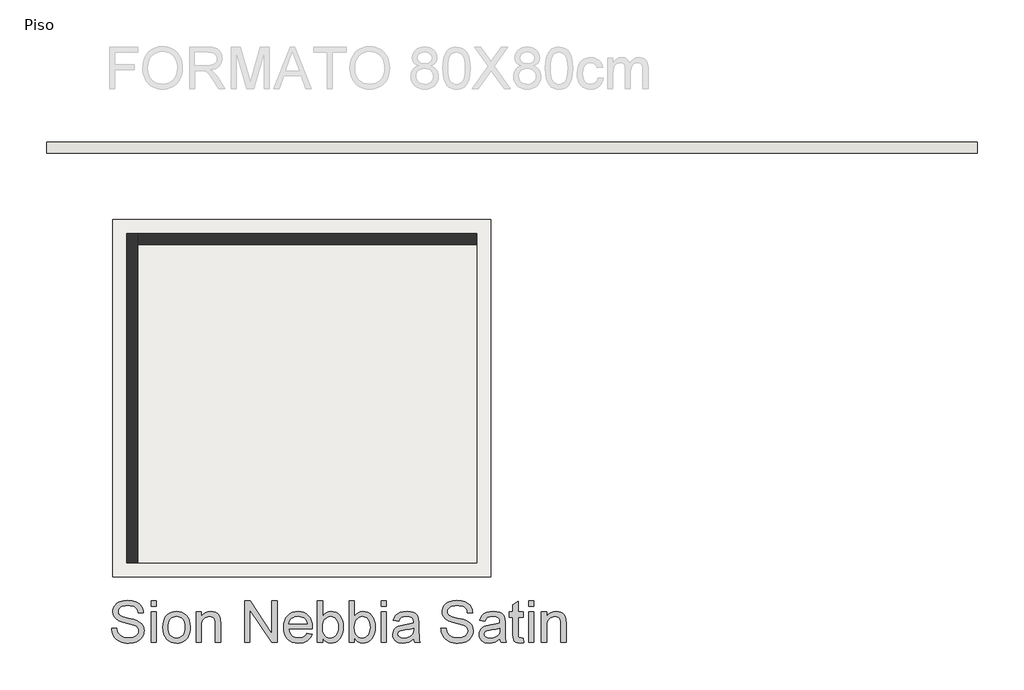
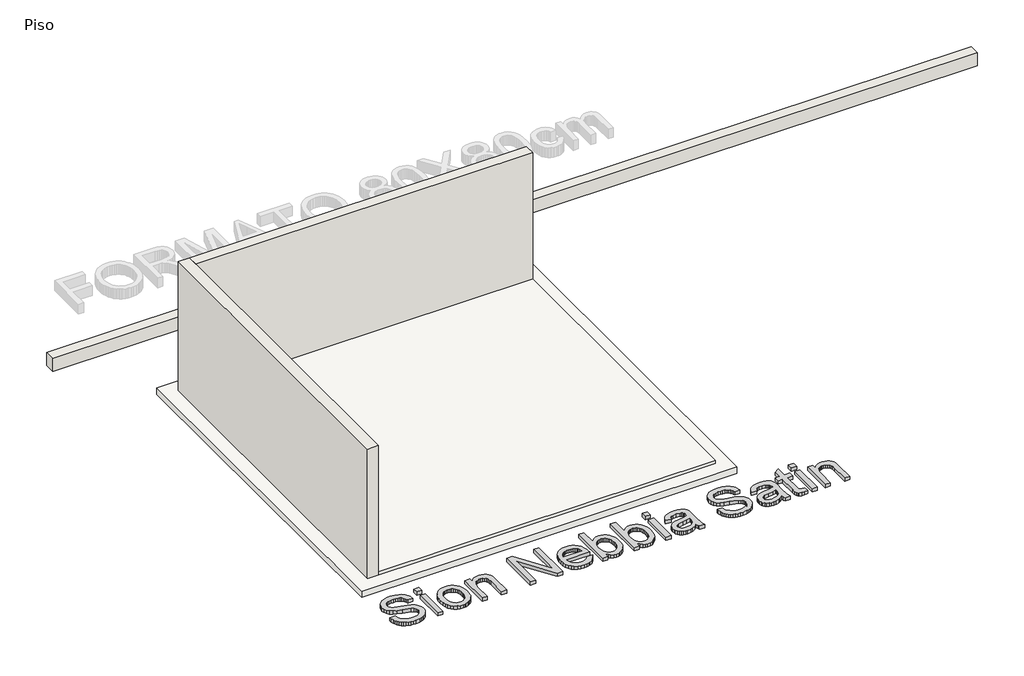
# One storey, part 1 of 2: 3 walls, 2 slabs, 1 proxy.
"""IFC4 building model written with IfcOpenShell, lengths in millimetres."""

import ifcopenshell
import ifcopenshell.guid

model = None  # the IFC model being written
_history = None  # IfcOwnerHistory: only IFC2X3 demands one
_inside = {}  # id of a spatial element -> (the spatial element, [elements in it])
_under = {}  # id of a project, library or spatial element -> (it, [spatial elements below it])
_declared = {}  # id of a project -> (the project, [libraries it declares])
_typed = {}  # id of a type object -> (the type object, [elements of that type])
_made_of = {}  # id of a material, layer set ... -> (it, [elements and type objects made of it])


def new_model(schema):
    """Start an empty IFC model of exactly this schema.

    Asked for "IFC4X3", IfcOpenShell would pick the latest addendum, in which some entities
    have other attributes; the version numbers below select the first issue.
    IFC2X3 requires an IfcOwnerHistory on every rooted entity: one is made here for all.
    """
    global model, _history
    if schema == "IFC4X3":
        model = ifcopenshell.file(schema_version=(4, 3, 0, 0))
    else:
        model = ifcopenshell.file(schema=schema)
    _inside.clear()
    _under.clear()
    _declared.clear()
    _typed.clear()
    _made_of.clear()
    _history = None
    if model.schema == "IFC2X3":
        org = make("IfcOrganization", Name="unknown")
        user = make(
            "IfcPersonAndOrganization",
            ThePerson=make("IfcPerson", FamilyName="unknown"),
            TheOrganization=org,
        )
        app = make(
            "IfcApplication",
            ApplicationDeveloper=org,
            Version="unknown",
            ApplicationFullName="unknown",
            ApplicationIdentifier="unknown",
        )
        _history = make(
            "IfcOwnerHistory",
            OwningUser=user,
            OwningApplication=app,
            ChangeAction="ADDED",
            CreationDate=0,
        )
    return model


def make(cls, **values):
    """One entity of the class cls with the attributes given. An attribute that is None is left unset."""
    return model.create_entity(
        cls, **{name: value for name, value in values.items() if value is not None}
    )


def rooted(cls, **values):
    """An entity with a GlobalId (a new one), such as an element, a storey or a relation."""
    return make(cls, GlobalId=ifcopenshell.guid.new(), OwnerHistory=_history, **values)


def si_unit(unit_type, name, prefix=None):
    """IfcSIUnit, for example si_unit("LENGTHUNIT", "METRE", prefix="MILLI")."""
    return make("IfcSIUnit", UnitType=unit_type, Prefix=prefix, Name=name)


def assignment(units):
    """IfcUnitAssignment: the units of a project."""
    return None if units is None else make("IfcUnitAssignment", Units=units)


def point(xyz):
    """IfcCartesianPoint."""
    return None if xyz is None else make("IfcCartesianPoint", Coordinates=xyz)


def direction(xyz):
    """IfcDirection."""
    return None if xyz is None else make("IfcDirection", DirectionRatios=xyz)


def frame(location, z_axis=None, x_axis=None):
    """IfcAxis2Placement3D, a coordinate frame: its origin and axes. An axis left out is left unset."""
    return make(
        "IfcAxis2Placement3D",
        Location=point(location),
        Axis=direction(z_axis),
        RefDirection=direction(x_axis),
    )


def origin():
    """The frame at (0, 0, 0) with its axes left unset."""
    return frame((0.0, 0.0, 0.0))


def origin_with_axes():
    """The frame at (0, 0, 0) with the z axis (0, 0, 1) and the x axis (1, 0, 0) written out."""
    return frame((0.0, 0.0, 0.0), z_axis=(0.0, 0.0, 1.0), x_axis=(1.0, 0.0, 0.0))


def place(relative_to, where):
    """IfcLocalPlacement: puts the frame where relative to a parent placement (None: the world)."""
    return make(
        "IfcLocalPlacement", PlacementRelTo=relative_to, RelativePlacement=where
    )


def context(
    kind, dimensions, precision=None, world=None, true_north=None, identifier=None
):
    """IfcGeometricRepresentationContext, for example the 3D "Model" context."""
    return make(
        "IfcGeometricRepresentationContext",
        ContextIdentifier=identifier,
        ContextType=kind,
        CoordinateSpaceDimension=dimensions,
        Precision=precision,
        WorldCoordinateSystem=world,
        TrueNorth=true_north,
    )


def project(units=None, contexts=None):
    """IfcProject with its units and contexts."""
    return rooted(
        "IfcProject",
        Name="project",
        RepresentationContexts=contexts,
        UnitsInContext=assignment(units),
    )


def spatial(cls, under=None, at=None, **own):
    """A site, building, storey or space (cls), placed at a placement, below another one or the project."""
    s = rooted(cls, ObjectPlacement=at, **own)
    if under is not None:
        _under.setdefault(under.id(), (under, []))[1].append(s)
    return s


def polyline(points):
    """IfcPolyline through the points."""
    return make("IfcPolyline", Points=[point(p) for p in points])


def outline(outer, holes=None, kind="AREA"):
    """IfcArbitraryClosedProfileDef: a profile drawn as a closed curve; with holes, ...WithVoids."""
    if holes is None:
        return make("IfcArbitraryClosedProfileDef", ProfileType=kind, OuterCurve=outer)
    return make(
        "IfcArbitraryProfileDefWithVoids",
        ProfileType=kind,
        OuterCurve=outer,
        InnerCurves=holes,
    )


def extrude(swept, where, along, depth):
    """IfcExtrudedAreaSolid: the profile swept, set in the frame where, extruded along a direction by depth."""
    return make(
        "IfcExtrudedAreaSolid",
        SweptArea=swept,
        Position=where,
        ExtrudedDirection=direction(along),
        Depth=depth,
    )


def faces_of(points, faces, orient=None, outer=None):
    """IfcFace entities. A face is a list of loops; a loop is a list of indices into points, from 0.

    orient and outer hold one flag for each loop. By default every Orientation is true, the
    first loop of a face is its IfcFaceOuterBound and the others are IfcFaceBound.
    """
    made = []
    for i, loops in enumerate(faces):
        bounds = []
        for j, loop in enumerate(loops):
            is_outer = j == 0 if outer is None else outer[i][j]
            bounds.append(
                make(
                    "IfcFaceOuterBound" if is_outer else "IfcFaceBound",
                    Bound=make("IfcPolyLoop", Polygon=[points[k] for k in loop]),
                    Orientation=True if orient is None else orient[i][j],
                )
            )
        made.append(make("IfcFace", Bounds=bounds))
    return made


def faceted_brep(points, faces, orient=None, outer=None, voids=None):
    """IfcFacetedBrep: a solid bounded by flat faces; with voids (closed shells), ...WithVoids."""
    shared = [point(p) for p in points]
    hull = make("IfcClosedShell", CfsFaces=faces_of(shared, faces, orient, outer))
    if voids is None:
        return make("IfcFacetedBrep", Outer=hull)
    return make(
        "IfcFacetedBrepWithVoids",
        Outer=hull,
        Voids=[
            make(cls, CfsFaces=faces_of(shared, fs, o, b)) for cls, fs, o, b in voids
        ],
    )


def shape(context_of_items, identifier, shape_type, items):
    """IfcShapeRepresentation: the items that make up one representation, for example the "Body"."""
    return make(
        "IfcShapeRepresentation",
        ContextOfItems=context_of_items,
        RepresentationIdentifier=identifier,
        RepresentationType=shape_type,
        Items=items,
    )


def made_of(thing, what):
    """Note that an element or type object is made of a material, layer set ...; save() writes the relation."""
    if what is not None:
        _made_of.setdefault(what.id(), (what, []))[1].append(thing)
    return thing


def element(
    cls,
    number,
    at=None,
    inside=None,
    cuts=None,
    type_object=None,
    material=None,
    context=None,
    identifier="Body",
    shape_type=None,
    held_by="IfcProductDefinitionShape",
    body=None,
    shapes=None,
    **own,
):
    """One element of the class cls, such as IfcWall. Its Tag is "e" and its number.

    at: its placement. inside: the storey or other place that contains it. cuts: it is an
    opening in that element (IfcRelVoidsElement). A single representation is given by context,
    identifier, shape_type and body (its items); several are given by shapes. held_by: the class
    of the entity that holds the representations. save() writes the other relations.
    """
    e = rooted(cls, Tag="e%d" % number, ObjectPlacement=at, **own)
    if body is not None:
        shapes = [shape(context, identifier, shape_type, body)]
    if shapes is not None:
        e.Representation = make(held_by, Representations=shapes)
    if inside is not None:
        _inside.setdefault(inside.id(), (inside, []))[1].append(e)
    if cuts is not None:
        rooted(
            "IfcRelVoidsElement", RelatingBuildingElement=cuts, RelatedOpeningElement=e
        )
    if type_object is not None:
        _typed.setdefault(type_object.id(), (type_object, []))[1].append(e)
    return made_of(e, material)


def aggregate(whole, parts):
    """IfcRelAggregates: a whole, such as a stair, and the parts it consists of."""
    return rooted("IfcRelAggregates", RelatingObject=whole, RelatedObjects=parts)


def save(model, path):
    """Write the relations noted so far, then the file.

    IfcRelAggregates (storeys below a building ...), IfcRelContainedInSpatialStructure (elements
    in a storey), IfcRelDefinesByType, IfcRelAssociatesMaterial and IfcRelDeclares: one each for
    every whole, place, type object, material and project.
    """
    for whole, parts in _under.values():
        aggregate(whole, parts)
    for where, things in _inside.values():
        rooted(
            "IfcRelContainedInSpatialStructure",
            RelatedElements=things,
            RelatingStructure=where,
        )
    for kind, things in _typed.values():
        rooted("IfcRelDefinesByType", RelatedObjects=things, RelatingType=kind)
    for what, things in _made_of.values():
        rooted("IfcRelAssociatesMaterial", RelatedObjects=things, RelatingMaterial=what)
    for by, libraries in _declared.values():
        rooted("IfcRelDeclares", RelatingContext=by, RelatedDefinitions=libraries)
    model.write(path)


model = new_model("IFC4")

# Units and contexts
model_context = context("Model", 3, world=origin())
ifc_project = project(units=[si_unit("LENGTHUNIT", "METRE", prefix="MILLI")], contexts=[model_context])

# Site, building, storey
site = spatial("IfcSite", under=ifc_project)
building = spatial("IfcBuilding", under=site)
storey = spatial("IfcBuildingStorey", under=building, Name="Piso", Elevation=0.0)

# Proxy
placement = place(None, origin())
element("IfcBuildingElementProxy", 1, Name="600mm Arial", ObjectType="600mm Arial", at=placement, inside=storey, context=model_context, shape_type="SweptSolid", body=[
    extrude(outline(polyline([(92629.829949, -5127.3536744), (92705.1721816, -5127.3536744), (92713.8174085, -5169.1634632), (92729.4523933, -5202.7694834), (92753.8429695, -5229.4409281), (92788.7549709, -5250.44699), (92831.4292823, -5264.0770179), (92879.1067889, -5268.6203606), (92921.0821245, -5265.1806639), (92957.8335359, -5254.861574), (92987.6135834, -5238.5276134), (93008.6748276, -5217.0433049), (93021.2012095, -5192.3768171), (93025.3766702, -5166.4963187), (93022.2496732, -5141.2780079), (93012.8686823, -5119.4809997), (92993.812395, -5100.8845649), (92961.6595086, -5085.2679742), (92851.9570976, -5056.4996022), (92779.9441971, -5037.4617089), (92733.8669772, -5019.3435206), (92696.3614078, -4993.9964512), (92669.7819336, -4963.2783046), (92653.9446137, -4927.8512684), (92648.6655071, -4888.3775304), (92650.2979835, -4865.9413272), (92655.1954125, -4844.250085), (92663.3577943, -4823.3038039), (92674.7851288, -4803.1024839), (92689.3486573, -4784.4692608), (92706.919621, -4768.2272707), (92727.4980202, -4754.3765136), (92751.0838546, -4742.9169895), (92804.0956501, -4727.521128), (92862.7728283, -4722.3891741), (92926.3428371, -4727.7602513), (92981.9665947, -4743.8734827), (93006.3019887, -4755.8756328), (93027.6575385, -4770.3977745), (93046.0332442, -4787.4399079), (93061.4291057, -4807.002033), (93073.7255614, -4828.5139327), (93082.8030496, -4851.4053898), (93088.6615704, -4875.6764045), (93091.3011237, -4901.3269766), (93015.9588911, -4901.3269766), (93010.9189078, -4877.2858882), (93002.1265281, -4856.3717968), (92989.581752, -4838.5847023), (92973.2845797, -4823.9246048), (92952.9315083, -4812.4650807), (92928.2190352, -4804.2797063), (92899.1471606, -4799.3684816), (92865.7158843, -4797.7314068), (92831.2177502, -4799.3500875), (92801.7412053, -4804.2061299), (92777.2862497, -4812.2995338), (92757.8528833, -4823.6302992), (92743.045633, -4837.2511301), (92732.4690256, -4852.2147302), (92726.1230612, -4868.5210997), (92724.0077397, -4886.1702384), (92725.5068589, -4901.3545677), (92730.0042162, -4915.1225514), (92737.4998119, -4927.4741894), (92747.9936458, -4938.4094817), (92764.5115474, -4948.7653599), (92790.5208045, -4959.2316026), (92871.013385, -4980.495182), (92954.0811395, -5000.6919035), (93004.33382, -5018.3134511), (93047.284043, -5045.6470833), (93063.8893165, -5061.7143294), (93077.2480315, -5079.3818623), (93087.5165377, -5098.5577113), (93094.851185, -5119.1499059), (93100.7189028, -5164.5833323), (93099.0312441, -5188.1507727), (93093.9682682, -5211.0284342), (93085.5299749, -5233.2163171), (93073.7163643, -5254.7144212), (93058.7343701, -5274.6904135), (93040.7909258, -5292.3119611), (93019.8860314, -5307.5790639), (92996.019687, -5320.4917219), (92969.8862697, -5330.7602281), (92942.180157, -5338.0948754), (92882.0498449, -5343.9625932), (92843.5096073, -5342.3807006), (92808.2343225, -5337.6350229), (92776.2239904, -5329.72556), (92747.478611, -5318.6523119), (92721.8234404, -5304.3968846), (92699.0837346, -5286.9408839), (92679.2594935, -5266.2843099), (92662.3507173, -5242.4271625), (92648.7298865, -5216.141994), (92638.7694814, -5188.2013564), (92632.4695023, -5158.6052499), (92629.829949, -5127.3536744)])), origin_with_axes(), (0.0, 0.0, 1.0), 50.0),
    extrude(outline(polyline([(93204.3144726, -4807.1491858), (93204.3144726, -4731.8069532), (93279.6567052, -4731.8069532), (93279.6567052, -4807.1491858), (93204.3144726, -4807.1491858)])), origin_with_axes(), (0.0, 0.0, 1.0), 50.0),
    extrude(outline(polyline([(93204.3144726, -5334.5448141), (93204.3144726, -4891.9091975), (93279.6567052, -4891.9091975), (93279.6567052, -5334.5448141), (93204.3144726, -5334.5448141)])), origin_with_axes(), (0.0, 0.0, 1.0), 50.0),
    extrude(outline(polyline([(93373.834496, -5113.2270058), (93377.9087891, -5055.9017939), (93390.1316684, -5006.504439), (93410.5031339, -4965.0349411), (93439.0231855, -4931.4933002), (93467.7363753, -4910.0549769), (93499.4294092, -4894.7418889), (93534.1022872, -4885.5540361), (93571.7550094, -4882.4914184), (93613.3210763, -4886.2208222), (93650.9048207, -4897.4090333), (93684.5062424, -4916.056052), (93714.1253415, -4942.1618781), (93738.2997872, -4974.8435948), (93755.5672483, -5013.2182854), (93765.927725, -5057.2859499), (93769.3812172, -5107.0465883), (93767.8545069, -5147.375652), (93763.2743761, -5183.1613731), (93755.6408247, -5214.4037515), (93744.9538527, -5241.1027873), (93731.3468174, -5264.1643899), (93714.953076, -5284.4944687), (93695.7726285, -5302.0930236), (93673.8054749, -5316.9600547), (93649.9069408, -5328.7736653), (93624.9323518, -5337.2119586), (93598.881708, -5342.2749345), (93571.7550094, -5343.9625932), (93529.5819372, -5340.246985), (93491.648705, -5329.1001606), (93457.9553127, -5310.5221198), (93428.5017605, -5284.5128628), (93404.5848323, -5251.5138478), (93387.5013121, -5211.9665333), (93377.2512, -5165.8709193), (93373.834496, -5113.2270058)]), holes=[polyline([(93449.1767286, -5113.079853), (93451.3564294, -5149.6243307), (93457.8955319, -5181.2667808), (93468.794036, -5208.0072033), (93484.0519418, -5229.8455983), (93502.6115884, -5246.8095568), (93523.4153152, -5258.92667), (93546.4631222, -5266.1969379), (93571.7550094, -5268.6203606), (93596.9181379, -5266.1831424), (93619.8739744, -5258.8714877), (93640.6225189, -5246.6853966), (93659.1637715, -5229.6248691), (93674.4216772, -5207.5703435), (93685.3201813, -5180.4022581), (93691.8592838, -5148.1206131), (93694.0389846, -5110.7254082), (93691.8454882, -5075.3397588), (93685.264999, -5044.5250432), (93674.297517, -5018.2812614), (93658.9430423, -4996.6084133), (93640.3328118, -4979.6444548), (93619.5980629, -4967.5273416), (93596.7387954, -4960.2570737), (93571.7550094, -4957.8336511), (93546.4631222, -4960.2478766), (93523.4153152, -4967.4905534), (93502.6115884, -4979.5616814), (93484.0519418, -4996.4612605), (93468.794036, -5018.2352761), (93457.8955319, -5044.9297134), (93451.3564294, -5076.5445724), (93449.1767286, -5113.079853)])]), origin_with_axes(), (0.0, 0.0, 1.0), 50.0),
    extrude(outline(polyline([(93854.1412289, -5334.5448141), (93854.1412289, -4891.9091975), (93929.4834615, -4891.9091975), (93929.4834615, -4953.7133727), (93955.6582655, -4922.5537677), (93987.093782, -4900.296907), (94023.790011, -4886.9427906), (94065.7469525, -4882.4914184), (94102.8846399, -4886.0782679), (94136.8953304, -4896.8388163), (94165.2590322, -4913.4302942), (94185.4557538, -4934.5099326), (94199.1593581, -4960.0225489), (94208.0437083, -4989.912961), (94212.0168338, -5062.7535961), (94212.0168338, -5334.5448141), (94136.6746012, -5334.5448141), (94136.6746012, -5072.9071391), (94134.5040974, -5033.9484359), (94127.9925861, -5006.2469216), (94115.981239, -4986.399688), (94097.3112277, -4971.0038265), (94073.3805039, -4961.1261949), (94045.5870192, -4957.8336511), (94022.7093576, -4959.6822581), (94001.4595739, -4965.2280792), (93981.837668, -4974.4711143), (93963.8436399, -4987.4113635), (93948.8110618, -5005.5203547), (93938.0735061, -5030.2696159), (93931.6309727, -5061.6591471), (93929.4834615, -5099.6889484), (93929.4834615, -5334.5448141), (93854.1412289, -5334.5448141)])), origin_with_axes(), (0.0, 0.0, 1.0), 50.0),
    extrude(outline(polyline([(94560.4746596, -5334.5448141), (94560.4746596, -4731.8069532), (94641.114393, -4731.8069532), (94956.0213809, -5209.317783), (94956.0213809, -4731.8069532), (95031.3636135, -4731.8069532), (95031.3636135, -5334.5448141), (94950.7238801, -5334.5448141), (94635.8168923, -4856.8868316), (94635.8168923, -5334.5448141), (94560.4746596, -5334.5448141)])), origin_with_axes(), (0.0, 0.0, 1.0), 50.0),
    extrude(outline(polyline([(95463.6985342, -5202.695907), (95537.5692388, -5212.1136861), (95526.2430719, -5241.7005956), (95510.9529765, -5267.774232), (95491.6989526, -5290.3345953), (95468.4810001, -5309.3816856), (95441.5382425, -5324.5108327), (95411.109803, -5335.3173663), (95377.1956816, -5341.8012865), (95339.7958782, -5343.9625932), (95293.0472737, -5340.2331895), (95251.3938348, -5329.0449783), (95214.8355615, -5310.3979597), (95183.3724539, -5284.2921336), (95158.0713697, -5251.454067), (95139.9991666, -5212.6103268), (95129.1558448, -5167.7609131), (95125.5414042, -5116.9058258), (95129.192633, -5064.3262916), (95140.1463194, -5017.9823573), (95158.4024635, -4977.8740227), (95183.9610651, -4944.001288), (95215.3413993, -4917.0907201), (95251.062741, -4897.8688858), (95291.1250903, -4886.3357853), (95335.5284471, -4882.4914184), (95378.5016626, -4886.3265882), (95417.3637969, -4897.8320976), (95452.1148499, -4917.0079466), (95482.7548216, -4943.8541352), (95507.7661987, -4977.6532935), (95525.6314681, -5017.6880517), (95536.3506297, -5063.9584096), (95539.9236836, -5116.4643674), (95539.4822252, -5136.7714535), (95200.8836369, -5136.7714535), (95205.247637, -5166.8366096), (95213.9250536, -5193.1677634), (95226.9158865, -5215.7649149), (95244.2201359, -5234.6280642), (95264.8813084, -5249.4996939), (95287.942911, -5260.1222865), (95313.4049436, -5266.4958421), (95341.2674062, -5268.6203606), (95381.3665437, -5264.6840232), (95415.1381108, -5252.8750112), (95442.5821077, -5232.4575605), (95463.6985342, -5202.695907)]), holes=[polyline([(95200.8836369, -5061.4292209), (95464.581451, -5061.4292209), (95454.3911197, -5021.624389), (95445.6263312, -5005.9710101), (95434.4151274, -4993.1503226), (95413.868918, -4977.6992788), (95390.4900172, -4966.6628189), (95364.278425, -4960.040943), (95335.2341415, -4957.8336511), (95308.7420393, -4959.5948861), (95284.4480321, -4964.8785913), (95262.3521197, -4973.6847665), (95242.4543023, -4986.0134119), (95225.7570582, -5001.2943103), (95213.262866, -5018.9572446), (95204.9717255, -5039.0022148), (95200.8836369, -5061.4292209)])]), origin_with_axes(), (0.0, 0.0, 1.0), 50.0),
    extrude(outline(polyline([(95690.6081488, -5334.5448141), (95615.2659162, -5334.5448141), (95615.2659162, -4731.8069532), (95690.6081488, -4731.8069532), (95690.6081488, -4955.3320535), (95715.3850012, -4923.4642757), (95743.3624269, -4900.7015772), (95774.540426, -4887.0439581), (95808.9189985, -4882.4914184), (95847.730549, -4886.5933027), (95884.4083839, -4898.8989554), (95916.8555759, -4918.6358245), (95942.9751975, -4945.0313576), (95963.4478306, -4977.8280375), (95978.9540566, -5016.7683467), (95988.7213236, -5060.2336044), (95991.9770793, -5106.6051299), (95988.6063605, -5160.1135661), (95978.4942042, -5207.1840674), (95961.6406103, -5247.8166338), (95938.0455788, -5282.0112652), (95909.7232637, -5309.1149712), (95878.6878189, -5328.4747612), (95844.9392443, -5340.0906352), (95808.4775401, -5343.9625932), (95772.9677305, -5338.9685951), (95741.4862288, -5323.9866009), (95714.0330349, -5299.0166104), (95690.6081488, -5264.0586238), (95690.6081488, -5334.5448141)]), holes=[polyline([(95690.6081488, -5110.1367971), (95695.7584968, -5172.9710418), (95702.1964317, -5196.7730069), (95711.2095406, -5215.4982005), (95729.4656846, -5238.7391455), (95750.6832786, -5255.3398206), (95774.8623228, -5265.3002256), (95802.002817, -5268.6203606), (95824.5355892, -5266.1739453), (95845.4864688, -5258.8346995), (95864.8554558, -5246.6026232), (95882.6425503, -5229.4777163), (95897.51418, -5207.5059641), (95908.1367726, -5180.7333519), (95914.5103281, -5149.1598797), (95916.6348467, -5112.7855474), (95914.5977001, -5075.7214364), (95908.4862605, -5043.8444615), (95898.3005277, -5017.1546228), (95884.0405019, -4995.6519202), (95866.8926024, -4979.1064274), (95848.0432487, -4967.2882183), (95827.4924407, -4960.1972929), (95805.2401785, -4957.8336511), (95782.7074063, -4960.2800663), (95761.7565267, -4967.6193121), (95742.3875397, -4979.8513885), (95724.6004452, -4996.9762953), (95709.7288155, -5018.7273183), (95699.1062229, -5044.8377429), (95692.7326674, -5075.3075692), (95690.6081488, -5110.1367971)])]), origin_with_axes(), (0.0, 0.0, 1.0), 50.0),
    extrude(outline(polyline([(96152.0793236, -5334.5448141), (96076.737091, -5334.5448141), (96076.737091, -4731.8069532), (96152.0793236, -4731.8069532), (96152.0793236, -4955.3320535), (96176.856176, -4923.4642757), (96204.8336017, -4900.7015772), (96236.0116008, -4887.0439581), (96270.3901732, -4882.4914184), (96309.2017237, -4886.5933027), (96345.8795586, -4898.8989554), (96378.3267506, -4918.6358245), (96404.4463723, -4945.0313576), (96424.9190053, -4977.8280375), (96440.4252314, -5016.7683467), (96450.1924984, -5060.2336044), (96453.448254, -5106.6051299), (96450.0775352, -5160.1135661), (96439.9653789, -5207.1840674), (96423.111785, -5247.8166338), (96399.5167535, -5282.0112652), (96371.1944384, -5309.1149712), (96340.1589936, -5328.4747612), (96306.4104191, -5340.0906352), (96269.9487148, -5343.9625932), (96234.4389052, -5338.9685951), (96202.9574035, -5323.9866009), (96175.5042096, -5299.0166104), (96152.0793236, -5264.0586238), (96152.0793236, -5334.5448141)]), holes=[polyline([(96152.0793236, -5110.1367971), (96157.2296715, -5172.9710418), (96163.6676064, -5196.7730069), (96172.6807153, -5215.4982005), (96190.9368593, -5238.7391455), (96212.1544534, -5255.3398206), (96236.3334975, -5265.3002256), (96263.4739917, -5268.6203606), (96286.0067639, -5266.1739453), (96306.9576435, -5258.8346995), (96326.3266306, -5246.6026232), (96344.1137251, -5229.4777163), (96358.9853547, -5207.5059641), (96369.6079473, -5180.7333519), (96375.9815029, -5149.1598797), (96378.1060214, -5112.7855474), (96376.0688749, -5075.7214364), (96369.9574352, -5043.8444615), (96359.7717025, -5017.1546228), (96345.5116766, -4995.6519202), (96328.3637771, -4979.1064274), (96309.5144234, -4967.2882183), (96288.9636155, -4960.1972929), (96266.7113533, -4957.8336511), (96244.1785811, -4960.2800663), (96223.2277014, -4967.6193121), (96203.8587144, -4979.8513885), (96186.0716199, -4996.9762953), (96171.1999903, -5018.7273183), (96160.5773977, -5044.8377429), (96154.2038421, -5075.3075692), (96152.0793236, -5110.1367971)])]), origin_with_axes(), (0.0, 0.0, 1.0), 50.0),
    extrude(outline(polyline([(96538.2082657, -4807.1491858), (96538.2082657, -4731.8069532), (96613.5504983, -4731.8069532), (96613.5504983, -4807.1491858), (96538.2082657, -4807.1491858)])), origin_with_axes(), (0.0, 0.0, 1.0), 50.0),
    extrude(outline(polyline([(96538.2082657, -5334.5448141), (96538.2082657, -4891.9091975), (96613.5504983, -4891.9091975), (96613.5504983, -5334.5448141), (96538.2082657, -5334.5448141)])), origin_with_axes(), (0.0, 0.0, 1.0), 50.0),
    extrude(outline(polyline([(97009.0972195, -5278.0381397), (96973.0999663, -5308.9034391), (96936.0358553, -5329.1001606), (96897.0587579, -5340.246985), (96855.3225456, -5343.9625932), (96821.7763061, -5341.7277101), (96792.3595421, -5335.0230607), (96767.0722534, -5323.8486451), (96745.9144402, -5308.2044633), (96729.2079991, -5289.0837966), (96717.2748269, -5267.4799264), (96710.1149235, -5243.3928528), (96707.7282891, -5216.8225757), (96711.3335326, -5185.5893943), (96722.1492633, -5157.2256924), (96738.8327118, -5132.9454808), (96760.0411088, -5113.9627698), (96784.965114, -5099.615372), (96812.7953869, -5089.2410997), (96877.9840765, -5077.9103343), (96955.0185663, -5065.9909576), (97008.6557611, -5052.0114418), (97009.0972195, -5035.2360228), (97003.9100834, -5001.6116085), (96997.4261632, -4989.1588029), (96988.348675, -4979.6122652), (96972.6585079, -4970.0841215), (96953.5470383, -4963.2783046), (96905.0601913, -4957.8336511), (96860.1785879, -4961.4572887), (96828.8350419, -4972.3282017), (96807.461098, -4992.4329527), (96792.4883008, -5023.7581046), (96717.1460682, -5014.3403255), (96730.2242731, -4973.1375421), (96749.7404129, -4940.7639265), (96777.5155036, -4916.0054682), (96815.3705609, -4897.6481566), (96861.66851, -4886.280603), (96914.772276, -4882.4914184), (96965.7055382, -4885.8391446), (97006.0805872, -4895.8823231), (97036.5228223, -4910.983879), (97057.6576429, -4929.5067374), (97071.6739469, -4952.4073916), (97080.7606322, -4980.6423348), (97084.4394522, -5046.5667883), (97084.4394522, -5140.3031207), (97088.2654249, -5271.1955345), (97093.9308076, -5303.550756), (97103.2750103, -5334.5448141), (97027.9327777, -5334.5448141), (97015.8662483, -5308.3516161), (97009.0972195, -5278.0381397)]), holes=[polyline([(97009.0972195, -5127.3536744), (96958.476657, -5139.8984505), (96887.5490083, -5150.4566637), (96822.7282008, -5162.670346), (96805.8608113, -5171.0212673), (96793.3712176, -5182.5359737), (96785.6456957, -5196.3315485), (96783.0705217, -5211.5250749), (96788.6807221, -5233.9290884), (96805.5113234, -5252.2864), (96833.1944435, -5264.5368704), (96871.3622005, -5268.6203606), (96911.82922, -5264.1138061), (96947.5873499, -5250.5941428), (96976.5764512, -5230.6733328), (96996.7363845, -5206.9633382), (97005.675917, -5182.5359737), (97008.6557611, -5148.6908302), (97009.0972195, -5127.3536744)])]), origin_with_axes(), (0.0, 0.0, 1.0), 50.0),
    extrude(outline(polyline([(97404.6439408, -5127.3536744), (97479.9861734, -5127.3536744), (97488.6314003, -5169.1634632), (97504.2663851, -5202.7694834), (97528.6569613, -5229.4409281), (97563.5689627, -5250.44699), (97606.2432741, -5264.0770179), (97653.9207807, -5268.6203606), (97695.8961163, -5265.1806639), (97732.6475277, -5254.861574), (97762.4275752, -5238.5276134), (97783.4888194, -5217.0433049), (97796.0152013, -5192.3768171), (97800.190662, -5166.4963187), (97797.063665, -5141.2780079), (97787.6826741, -5119.4809997), (97768.6263868, -5100.8845649), (97736.4735004, -5085.2679742), (97626.7710894, -5056.4996022), (97554.7581889, -5037.4617089), (97508.680969, -5019.3435206), (97471.1753996, -4993.9964512), (97444.5959254, -4963.2783046), (97428.7586055, -4927.8512684), (97423.4794989, -4888.3775304), (97425.1119753, -4865.9413272), (97430.0094043, -4844.250085), (97438.1717861, -4823.3038039), (97449.5991206, -4803.1024839), (97464.1626491, -4784.4692608), (97481.7336128, -4768.2272707), (97502.312012, -4754.3765136), (97525.8978464, -4742.9169895), (97578.9096419, -4727.521128), (97637.5868201, -4722.3891741), (97701.1568289, -4727.7602513), (97756.7805865, -4743.8734827), (97781.1159805, -4755.8756328), (97802.4715303, -4770.3977745), (97820.847236, -4787.4399079), (97836.2430975, -4807.002033), (97848.5395532, -4828.5139327), (97857.6170414, -4851.4053898), (97863.4755622, -4875.6764045), (97866.1151155, -4901.3269766), (97790.7728829, -4901.3269766), (97785.7328996, -4877.2858882), (97776.9405199, -4856.3717968), (97764.3957438, -4838.5847023), (97748.0985715, -4823.9246048), (97727.7455001, -4812.4650807), (97703.033027, -4804.2797063), (97673.9611524, -4799.3684816), (97640.5298761, -4797.7314068), (97606.031742, -4799.3500875), (97576.5551971, -4804.2061299), (97552.1002415, -4812.2995338), (97532.6668751, -4823.6302992), (97517.8596248, -4837.2511301), (97507.2830174, -4852.2147302), (97500.937053, -4868.5210997), (97498.8217315, -4886.1702384), (97500.3208507, -4901.3545677), (97504.818208, -4915.1225514), (97512.3138037, -4927.4741894), (97522.8076376, -4938.4094817), (97539.3255392, -4948.7653599), (97565.3347963, -4959.2316026), (97645.8273768, -4980.495182), (97728.8951313, -5000.6919035), (97779.1478118, -5018.3134511), (97822.0980348, -5045.6470833), (97838.7033083, -5061.7143294), (97852.0620233, -5079.3818623), (97862.3305295, -5098.5577113), (97869.6651768, -5119.1499059), (97875.5328946, -5164.5833323), (97873.8452359, -5188.1507727), (97868.78226, -5211.0284342), (97860.3439667, -5233.2163171), (97848.5303561, -5254.7144212), (97833.5483619, -5274.6904135), (97815.6049176, -5292.3119611), (97794.7000232, -5307.5790639), (97770.8336788, -5320.4917219), (97744.7002615, -5330.7602281), (97716.9941488, -5338.0948754), (97656.8638367, -5343.9625932), (97618.3235991, -5342.3807006), (97583.0483143, -5337.6350229), (97551.0379822, -5329.72556), (97522.2926028, -5318.6523119), (97496.6374322, -5304.3968846), (97473.8977263, -5286.9408839), (97454.0734853, -5266.2843099), (97437.1647091, -5242.4271625), (97423.5438783, -5216.141994), (97413.5834732, -5188.2013564), (97407.2834941, -5158.6052499), (97404.6439408, -5127.3536744)])), origin_with_axes(), (0.0, 0.0, 1.0), 50.0),
    extrude(outline(polyline([(98261.6618367, -5278.0381397), (98225.6645835, -5308.9034391), (98188.6004725, -5329.1001606), (98149.6233751, -5340.246985), (98107.8871627, -5343.9625932), (98074.3409233, -5341.7277101), (98044.9241593, -5335.0230607), (98019.6368706, -5323.8486451), (97998.4790574, -5308.2044633), (97981.7726163, -5289.0837966), (97969.839444, -5267.4799264), (97962.6795407, -5243.3928528), (97960.2929063, -5216.8225757), (97963.8981498, -5185.5893943), (97974.7138805, -5157.2256924), (97991.397329, -5132.9454808), (98012.605726, -5113.9627698), (98037.5297312, -5099.615372), (98065.3600041, -5089.2410997), (98130.5486936, -5077.9103343), (98207.5831834, -5065.9909576), (98261.2203783, -5052.0114418), (98261.6618367, -5035.2360228), (98256.4747006, -5001.6116085), (98249.9907804, -4989.1588029), (98240.9132922, -4979.6122652), (98225.2231251, -4970.0841215), (98206.1116554, -4963.2783046), (98157.6248085, -4957.8336511), (98112.7432051, -4961.4572887), (98081.3996591, -4972.3282017), (98060.0257152, -4992.4329527), (98045.052918, -5023.7581046), (97969.7106853, -5014.3403255), (97982.7888903, -4973.1375421), (98002.3050301, -4940.7639265), (98030.0801208, -4916.0054682), (98067.9351781, -4897.6481566), (98114.2331272, -4886.280603), (98167.3368932, -4882.4914184), (98218.2701554, -4885.8391446), (98258.6452044, -4895.8823231), (98289.0874395, -4910.983879), (98310.2222601, -4929.5067374), (98324.2385641, -4952.4073916), (98333.3252494, -4980.6423348), (98337.0040693, -5046.5667883), (98337.0040693, -5140.3031207), (98340.8300421, -5271.1955345), (98346.4954248, -5303.550756), (98355.8396275, -5334.5448141), (98280.4973949, -5334.5448141), (98268.4308654, -5308.3516161), (98261.6618367, -5278.0381397)]), holes=[polyline([(98261.6618367, -5127.3536744), (98211.0412742, -5139.8984505), (98140.1136255, -5150.4566637), (98075.292818, -5162.670346), (98058.4254285, -5171.0212673), (98045.9358347, -5182.5359737), (98038.2103129, -5196.3315485), (98035.6351389, -5211.5250749), (98041.2453393, -5233.9290884), (98058.0759406, -5252.2864), (98085.7590607, -5264.5368704), (98123.9268177, -5268.6203606), (98164.3938372, -5264.1138061), (98200.1519671, -5250.5941428), (98229.1410683, -5230.6733328), (98249.3010017, -5206.9633382), (98258.2405342, -5182.5359737), (98261.2203783, -5148.6908302), (98261.6618367, -5127.3536744)])]), origin_with_axes(), (0.0, 0.0, 1.0), 50.0),
    extrude(outline(polyline([(98600.7018835, -5271.7105693), (98610.1196626, -5336.7521061), (98553.7601409, -5343.9625932), (98517.5973408, -5340.8355962), (98490.6315905, -5331.4546054), (98471.5753032, -5316.9968429), (98459.1408917, -5298.6395314), (98452.2982866, -5267.1120444), (98450.0174183, -5213.1437557), (98450.0174183, -4967.2514301), (98393.5107438, -4967.2514301), (98393.5107438, -4891.9091975), (98450.0174183, -4891.9091975), (98450.0174183, -4784.3405021), (98525.3596509, -4740.0475099), (98525.3596509, -4891.9091975), (98600.7018835, -4891.9091975), (98600.7018835, -4967.2514301), (98525.3596509, -4967.2514301), (98525.3596509, -5210.9364637), (98529.3327764, -5249.7848024), (98542.2086462, -5263.543589), (98553.0795592, -5267.3511677), (98567.8868095, -5268.6203606), (98600.7018835, -5271.7105693)])), origin_with_axes(), (0.0, 0.0, 1.0), 50.0),
    extrude(outline(polyline([(98676.0441161, -4807.1491858), (98676.0441161, -4731.8069532), (98751.3863487, -4731.8069532), (98751.3863487, -4807.1491858), (98676.0441161, -4807.1491858)])), origin_with_axes(), (0.0, 0.0, 1.0), 50.0),
    extrude(outline(polyline([(98676.0441161, -5334.5448141), (98676.0441161, -4891.9091975), (98751.3863487, -4891.9091975), (98751.3863487, -5334.5448141), (98676.0441161, -5334.5448141)])), origin_with_axes(), (0.0, 0.0, 1.0), 50.0),
    extrude(outline(polyline([(98864.3996976, -5334.5448141), (98864.3996976, -4891.9091975), (98939.7419302, -4891.9091975), (98939.7419302, -4953.7133727), (98965.9167342, -4922.5537677), (98997.3522507, -4900.296907), (99034.0484797, -4886.9427906), (99076.0054212, -4882.4914184), (99113.1431087, -4886.0782679), (99147.1537991, -4896.8388163), (99175.5175009, -4913.4302942), (99195.7142225, -4934.5099326), (99209.4178268, -4960.0225489), (99218.302177, -4989.912961), (99222.2753025, -5062.7535961), (99222.2753025, -5334.5448141), (99146.9330699, -5334.5448141), (99146.9330699, -5072.9071391), (99144.7625661, -5033.9484359), (99138.2510548, -5006.2469216), (99126.2397077, -4986.399688), (99107.5696964, -4971.0038265), (99083.6389726, -4961.1261949), (99055.8454879, -4957.8336511), (99032.9678263, -4959.6822581), (99011.7180426, -4965.2280792), (98992.0961367, -4974.4711143), (98974.1021086, -4987.4113635), (98959.0695306, -5005.5203547), (98948.3319748, -5030.2696159), (98941.8894414, -5061.6591471), (98939.7419302, -5099.6889484), (98939.7419302, -5334.5448141), (98864.3996976, -5334.5448141)])), origin_with_axes(), (0.0, 0.0, 1.0), 50.0),
])

# Slabs
element("IfcSlab", 2, ObjectType="5cm - Porcelanato Sion Nebbia Satin  - Acetinado 80x80", at=placement, inside=storey, context=model_context, shape_type="SweptSolid", body=[
    extrude(outline(polyline([(97927.7735131, 441.5888171), (97927.7735131, -4179.0111829), (93007.1735131, -4179.0111829), (93007.1735131, 441.5888171), (97927.7735131, 441.5888171)])), origin_with_axes(), (0.0, 0.0, 1.0), 50.0),
])
element("IfcSlab", 3, ObjectType="CO02 - Concreto Estrutural Simples", at=placement, inside=storey, context=model_context, shape_type="SweptSolid", body=[
    extrude(outline(polyline([(98127.7735131, 800.3888171), (98127.7735131, -4379.0111829), (92648.3735131, -4379.0111829), (92648.3735131, 800.3888171), (98127.7735131, 800.3888171)])), frame((0.0, 0.0, -100.0), z_axis=(0.0, 0.0, 1.0), x_axis=(1.0, 0.0, 0.0)), (0.0, 0.0, 1.0), 100.0),
])

# Walls
element("IfcWall", 4, ObjectType="CO01 - Bloco de Concreto 14cm / Pintura Branca Simples", at=placement, inside=storey, context=model_context, shape_type="SweptSolid", body=[
    extrude(outline(polyline([(105186.699165, 1765.7486968), (91686.699165, 1765.7486968), (91686.699165, 1924.5486968), (105186.699165, 1924.5486968), (105186.699165, 1765.7486968)])), origin_with_axes(), (0.0, 0.0, 1.0), 200.0),
])
element("IfcWall", 5, ObjectType="CO01 - Bloco de Concreto 14cm / Pintura Branca Simples", at=placement, inside=storey, context=model_context, shape_type="Brep", body=[
    faceted_brep([(93007.1735131, -4179.0111829, 0.0), (93007.1735131, 441.5888171, 0.0), (93007.1735131, 600.3888171, 0.0), (93007.1735131, 600.3888171, 2000.0), (93007.1735131, 441.5888171, 2000.0), (93007.1735131, -4179.0111829, 2000.0), (92848.3735131, -4179.0111829, 0.0), (92848.3735131, -4179.0111829, 2000.0), (92848.3735131, 600.3888171, 2000.0), (92848.3735131, 600.3888171, 0.0)], [[[0, 1, 2, 3, 4, 5]], [[6, 7, 8, 9]], [[2, 1, 0, 6, 9]], [[5, 4, 3, 8, 7]], [[0, 5, 7, 6]], [[3, 2, 9, 8]]]),
])
element("IfcWall", 6, ObjectType="CO01 - Bloco de Concreto 14cm / Pintura Branca Simples", at=placement, inside=storey, context=model_context, shape_type="SweptSolid", body=[
    extrude(outline(polyline([(97927.7735131, 441.5888171), (93007.1735131, 441.5888171), (93007.1735131, 600.3888171), (97927.7735131, 600.3888171), (97927.7735131, 441.5888171)])), origin_with_axes(), (0.0, 0.0, 1.0), 2000.0),
])

save(model, "model.ifc")
